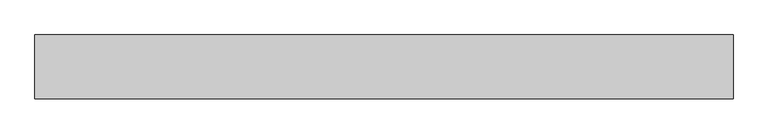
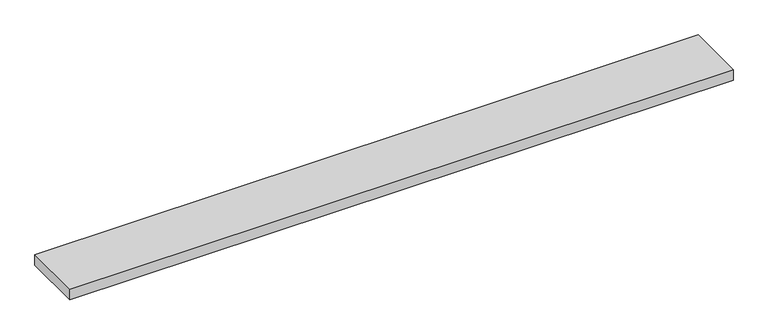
"""IFC4 building model written with IfcOpenShell, lengths in millimetres: proxy geometry, Vita_Решетка : РАП_Алюминиевая продольная."""

from ifc_helpers import new_model, si_unit, frame, origin, place, context, project, spatial, polyline, outline, extrude, source, transform, mapped, element, save


def mechanical_equipment_82ee95b5(model_context):
    return source(origin(), model_context, "Body", "SweptSolid", [
        extrude(outline(polyline([(-599.0, -23.6), (599.0, -23.6), (599.0, -133.0), (-599.0, -133.0), (-599.0, -23.6)])), frame((0.0, 0.0, 209.83), z_axis=(0.0, 0.0, 1.0), x_axis=(1.0, 0.0, 0.0)), (0.0, 0.0, 1.0), 20.17),
    ])


if __name__ == "__main__":
    model = new_model("IFC4")
    model_context = context("Model", 3, world=origin())
    ifc_project = project(units=[si_unit("LENGTHUNIT", "METRE", prefix="MILLI")], contexts=[model_context])
    site = spatial("IfcSite", under=ifc_project)
    building = spatial("IfcBuilding", under=site)
    placement = place(None, origin())
    mechanical_equipment_shape = mechanical_equipment_82ee95b5(model_context)
    element("IfcBuildingElementProxy", 1, Name="Vita_Решетка : РАП_Алюминиевая продольная", ObjectType="Vita_Решетка : РАП_Алюминиевая продольная", at=placement, inside=building, context=model_context, shape_type="MappedRepresentation", body=[
        mapped(mechanical_equipment_shape, transform((0.0, 0.0, 0.0), x_axis=(1.0, 0.0, 0.0), y_axis=(0.0, 1.0, 0.0), z_axis=(0.0, 0.0, 1.0))),
    ])
    save(model, "model.ifc")
